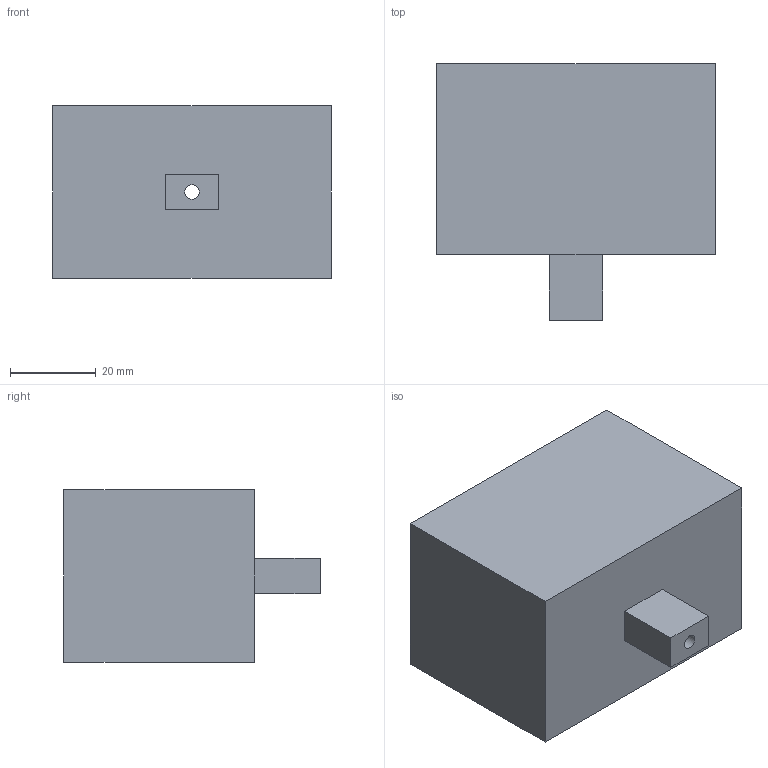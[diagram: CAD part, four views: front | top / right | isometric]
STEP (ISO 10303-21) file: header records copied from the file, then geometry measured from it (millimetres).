
FILE_DESCRIPTION(('Mechanical CAD reference from nasji.com'),'2;1');
FILE_NAME('NASJI.step','',(''),(''),'','NASJI distribution','');
FILE_SCHEMA(('AUTOMOTIVE_DESIGN { 1 0 10303 214 1 1 1 1 }'));
Length unit declared in the file: millimetre
Products named in the file (1): Open CASCADE STEP translator 7.8 204
Bounding box: 65 x 59.9 x 40.2 mm (x, y, z)
Volume: 117602.5 mm3; surface area: 15871 mm2
Topology: 1 solids, 1 shells, 12 faces, 27 edges, 18 vertices
Faces by surface type: plane 11, cylinder 1
Full cylindrical faces by diameter (mm): 3.4 x1
Entity records: 701 total; most frequent: CARTESIAN_POINT 118, DIRECTION 108, LINE 77, VECTOR 77, ORIENTED_EDGE 54, PCURVE 54, DEFINITIONAL_REPRESENTATION 54, EDGE_CURVE 27
